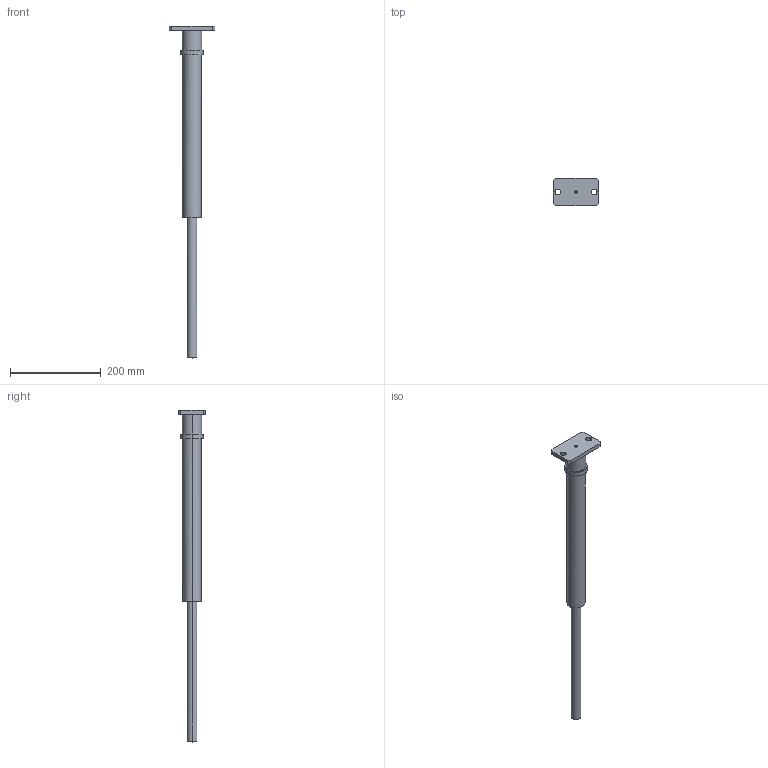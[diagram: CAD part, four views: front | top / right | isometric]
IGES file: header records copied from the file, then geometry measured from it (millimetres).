
Global section: file name: E:\UnigraphicsGraphicData\MISUMI_PRESS-PARTS\IGES\3d_papgs300-360_01670_r00.igs; native system: NX V5.0; preprocessor: UGS NX IGES V5.0; author: MISUMI; date: 20110105.162219; units: millimetre
Bounding box: 100 x 60 x 733 mm (x, y, z)
Surface area: 93499.3 mm2 (no closed solid volume)
Topology: 0 solids, 0 shells, 31 faces, 264 edges, 262 vertices
Faces by surface type: bspline 31
